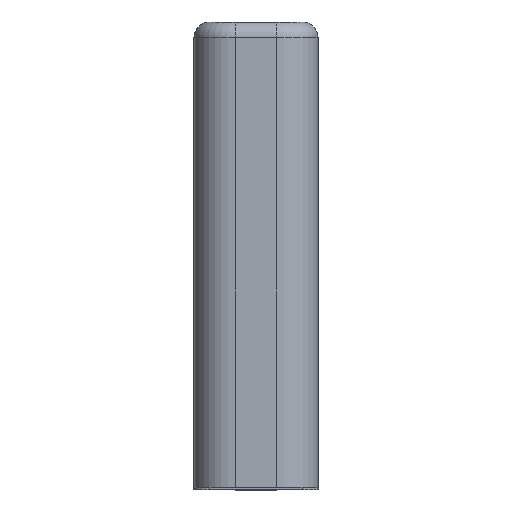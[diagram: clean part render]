
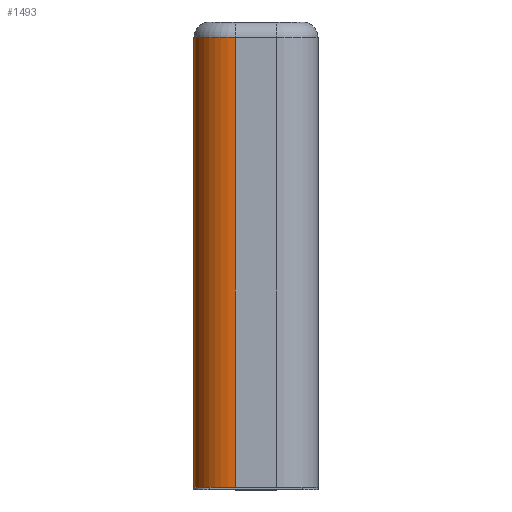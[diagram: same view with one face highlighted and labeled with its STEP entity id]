
A CAD part, top view. The second image highlights one B-rep face of the part: STEP entity #1493.
In plain terms, the highlighted cylindrical face has radius 2.667 mm (diameter 5.333 mm), a partial arc.
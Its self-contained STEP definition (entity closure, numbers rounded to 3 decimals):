
#74 = VECTOR ( 'NONE', #207, 1000. ) ;
#138 = AXIS2_PLACEMENT_3D ( 'NONE', #1959, #951, #766 ) ;
#165 = EDGE_LOOP ( 'NONE', ( #1457, #1004, #1053, #1699 ) ) ;
#207 = DIRECTION ( 'NONE',  ( 0., -1., 0. ) ) ;
#227 = CYLINDRICAL_SURFACE ( 'NONE', #874, 2.667 ) ;
#257 = EDGE_CURVE ( 'NONE', #1150, #1900, #259, .T. ) ;
#259 = CIRCLE ( 'NONE', #138, 2.667 ) ;
#281 = CARTESIAN_POINT ( 'NONE',  ( -2.333, 30., -4. ) ) ;
#309 = CARTESIAN_POINT ( 'NONE',  ( -5., 29., -1.333 ) ) ;
#342 = VERTEX_POINT ( 'NONE', #1646 ) ;
#420 = DIRECTION ( 'NONE',  ( 0., -1., 0. ) ) ;
#581 = CARTESIAN_POINT ( 'NONE',  ( -2.333, 29., -4. ) ) ;
#592 = DIRECTION ( 'NONE',  ( 0., 0., -1. ) ) ;
#619 = VERTEX_POINT ( 'NONE', #1463 ) ;
#706 = CIRCLE ( 'NONE', #1440, 2.667 ) ;
#766 = DIRECTION ( 'NONE',  ( 0., 0., 1. ) ) ;
#767 = CARTESIAN_POINT ( 'NONE',  ( -2.333, 30., -1.333 ) ) ;
#803 = DIRECTION ( 'NONE',  ( 0., -1., 0. ) ) ;
#874 = AXIS2_PLACEMENT_3D ( 'NONE', #767, #420, #592 ) ;
#951 = DIRECTION ( 'NONE',  ( 0., -1., 0. ) ) ;
#1004 = ORIENTED_EDGE ( 'NONE', *, *, #257, .T. ) ;
#1018 = FACE_OUTER_BOUND ( 'NONE', #165, .T. ) ;
#1053 = ORIENTED_EDGE ( 'NONE', *, *, #2144, .T. ) ;
#1145 = DIRECTION ( 'NONE',  ( 0., 0., 1. ) ) ;
#1150 = VERTEX_POINT ( 'NONE', #309 ) ;
#1249 = CARTESIAN_POINT ( 'NONE',  ( -5., 30., -1.333 ) ) ;
#1319 = CARTESIAN_POINT ( 'NONE',  ( -2.333, 0., -1.333 ) ) ;
#1400 = EDGE_CURVE ( 'NONE', #1150, #342, #2134, .T. ) ;
#1440 = AXIS2_PLACEMENT_3D ( 'NONE', #1319, #2153, #1145 ) ;
#1457 = ORIENTED_EDGE ( 'NONE', *, *, #1400, .F. ) ;
#1463 = CARTESIAN_POINT ( 'NONE',  ( -2.333, 0., -4. ) ) ;
#1493 = ADVANCED_FACE ( 'NONE', ( #1018 ), #227, .T. ) ;
#1646 = CARTESIAN_POINT ( 'NONE',  ( -5., 0., -1.333 ) ) ;
#1699 = ORIENTED_EDGE ( 'NONE', *, *, #2178, .T. ) ;
#1797 = VECTOR ( 'NONE', #803, 1000. ) ;
#1900 = VERTEX_POINT ( 'NONE', #581 ) ;
#1921 = LINE ( 'NONE', #281, #1797 ) ;
#1959 = CARTESIAN_POINT ( 'NONE',  ( -2.333, 29., -1.333 ) ) ;
#2134 = LINE ( 'NONE', #1249, #74 ) ;
#2144 = EDGE_CURVE ( 'NONE', #1900, #619, #1921, .T. ) ;
#2153 = DIRECTION ( 'NONE',  ( 0., 1., 0. ) ) ;
#2178 = EDGE_CURVE ( 'NONE', #619, #342, #706, .T. ) ;
